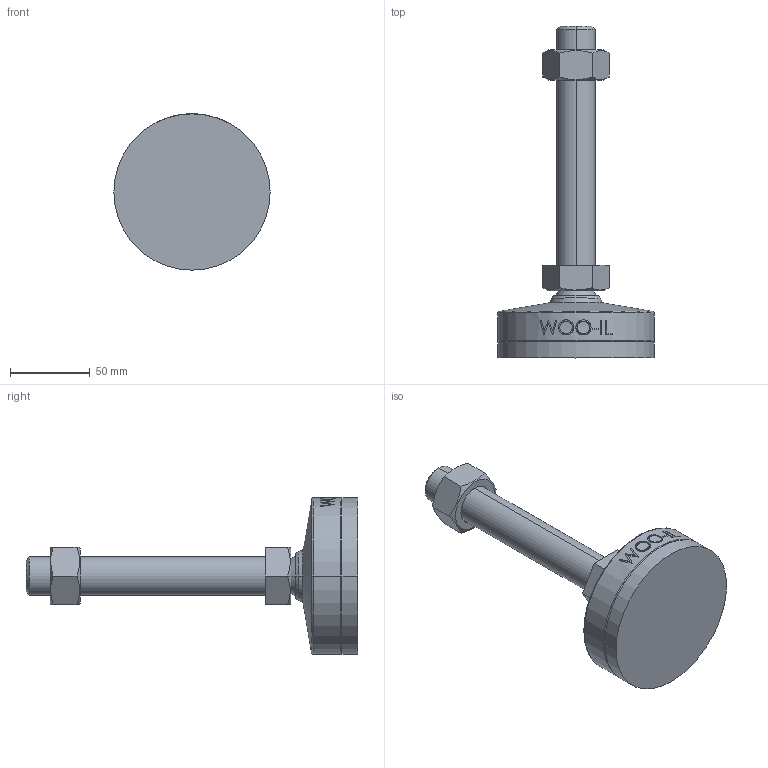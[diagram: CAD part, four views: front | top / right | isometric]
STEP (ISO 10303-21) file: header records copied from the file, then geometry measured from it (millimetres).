
FILE_DESCRIPTION (( 'STEP AP214' ), '1' );
FILE_NAME ('MFNR98-M24-150.step', '2021-02-22T09:09:22', ( '' ), ( '' ), 'SwSTEP 2.0', 'SolidWorks 2019', '' );
FILE_SCHEMA (( 'AUTOMOTIVE_DESIGN' ));
Length unit declared in the file: millimetre
Products named in the file (2): MFNR98-M24-150
Bounding box: 98 x 208 x 98 mm (x, y, z)
Volume: 341348.3 mm3; surface area: 44496.3 mm2
Topology: 2 solids, 2 shells, 103 faces, 243 edges, 156 vertices
Faces by surface type: plane 47, cone 18, cylinder 16, bspline 16, torus 4, sphere 2
Entity records: 4575 total; most frequent: CARTESIAN_POINT 2276, ORIENTED_EDGE 486, DIRECTION 423, EDGE_CURVE 243, AXIS2_PLACEMENT_3D 161, VERTEX_POINT 156, EDGE_LOOP 117, ADVANCED_FACE 103
